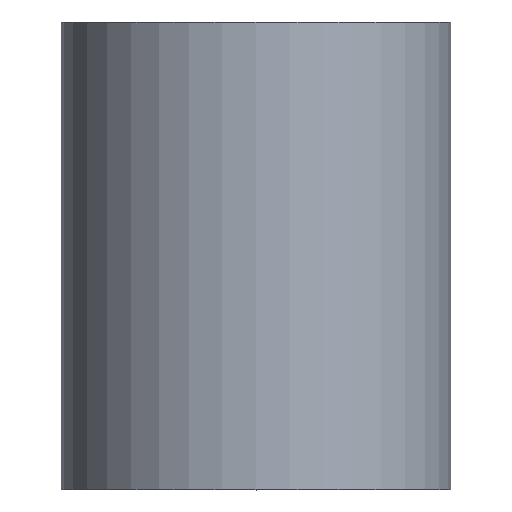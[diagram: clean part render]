
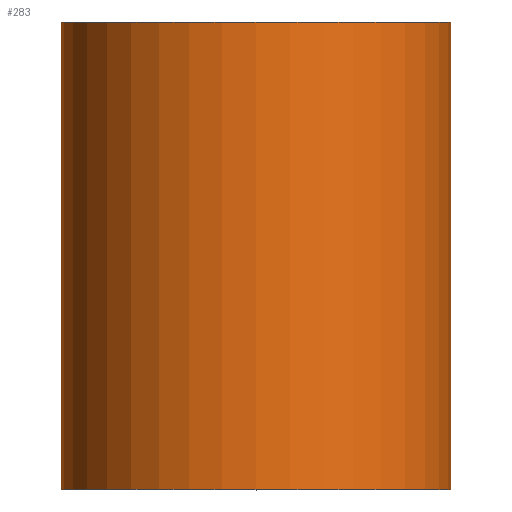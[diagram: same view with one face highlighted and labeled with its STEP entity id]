
A CAD part, top view. The second image highlights one B-rep face of the part: STEP entity #283.
In plain terms, the highlighted cylindrical face has radius 2.5 mm (diameter 5 mm), a partial arc.
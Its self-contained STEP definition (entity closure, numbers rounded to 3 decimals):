
#22 = DIRECTION ( 'NONE',  ( 0., 1., 0. ) ) ;
#24 = DIRECTION ( 'NONE',  ( -1., 0., 0. ) ) ;
#27 = ORIENTED_EDGE ( 'NONE', *, *, #85, .T. ) ;
#44 = AXIS2_PLACEMENT_3D ( 'NONE', #141, #22, #144 ) ;
#55 = VECTOR ( 'NONE', #136, 1000. ) ;
#60 = VERTEX_POINT ( 'NONE', #291 ) ;
#70 = AXIS2_PLACEMENT_3D ( 'NONE', #92, #161, #24 ) ;
#78 = EDGE_CURVE ( 'NONE', #60, #167, #115, .T. ) ;
#83 = ORIENTED_EDGE ( 'NONE', *, *, #202, .T. ) ;
#85 = EDGE_CURVE ( 'NONE', #263, #290, #281, .T. ) ;
#87 = CARTESIAN_POINT ( 'NONE',  ( 2.5, 6., 0. ) ) ;
#92 = CARTESIAN_POINT ( 'NONE',  ( 0., 6., 0. ) ) ;
#111 = CARTESIAN_POINT ( 'NONE',  ( 2.5, 0., 0. ) ) ;
#113 = DIRECTION ( 'NONE',  ( 0., 1., 0. ) ) ;
#115 = LINE ( 'NONE', #249, #55 ) ;
#117 = AXIS2_PLACEMENT_3D ( 'NONE', #214, #162, #230 ) ;
#136 = DIRECTION ( 'NONE',  ( 0., 1., 0. ) ) ;
#139 = CARTESIAN_POINT ( 'NONE',  ( 2.5, 0., 0. ) ) ;
#141 = CARTESIAN_POINT ( 'NONE',  ( 0., 0., 0. ) ) ;
#144 = DIRECTION ( 'NONE',  ( -1., 0., 0. ) ) ;
#153 = EDGE_LOOP ( 'NONE', ( #83, #27, #298, #299 ) ) ;
#161 = DIRECTION ( 'NONE',  ( 0., 1., 0. ) ) ;
#162 = DIRECTION ( 'NONE',  ( 0., 1., 0. ) ) ;
#165 = CIRCLE ( 'NONE', #117, 2.5 ) ;
#167 = VERTEX_POINT ( 'NONE', #254 ) ;
#202 = EDGE_CURVE ( 'NONE', #60, #263, #165, .T. ) ;
#214 = CARTESIAN_POINT ( 'NONE',  ( 0., 0., 0. ) ) ;
#230 = DIRECTION ( 'NONE',  ( -1., 0., 0. ) ) ;
#233 = VECTOR ( 'NONE', #113, 1000. ) ;
#238 = CIRCLE ( 'NONE', #70, 2.5 ) ;
#249 = CARTESIAN_POINT ( 'NONE',  ( -2.5, 0., 0. ) ) ;
#254 = CARTESIAN_POINT ( 'NONE',  ( -2.5, 6., 0. ) ) ;
#263 = VERTEX_POINT ( 'NONE', #139 ) ;
#274 = CYLINDRICAL_SURFACE ( 'NONE', #44, 2.5 ) ;
#275 = EDGE_CURVE ( 'NONE', #167, #290, #238, .T. ) ;
#281 = LINE ( 'NONE', #111, #233 ) ;
#283 = ADVANCED_FACE ( 'NONE', ( #300 ), #274, .T. ) ;
#290 = VERTEX_POINT ( 'NONE', #87 ) ;
#291 = CARTESIAN_POINT ( 'NONE',  ( -2.5, 0., 0. ) ) ;
#298 = ORIENTED_EDGE ( 'NONE', *, *, #275, .F. ) ;
#299 = ORIENTED_EDGE ( 'NONE', *, *, #78, .F. ) ;
#300 = FACE_OUTER_BOUND ( 'NONE', #153, .T. ) ;
